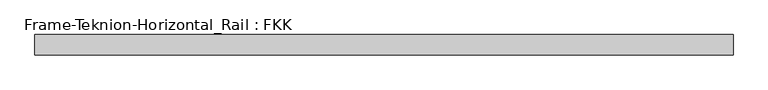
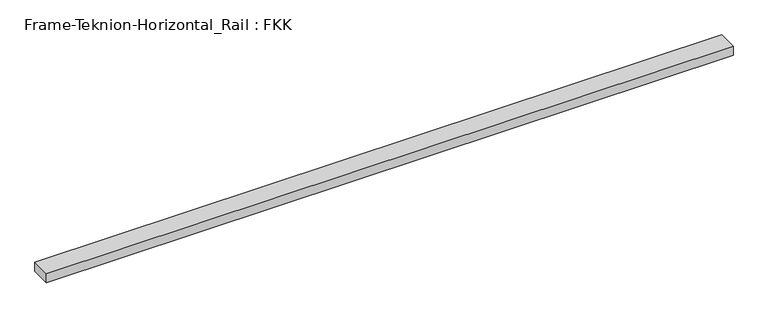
"""IFC4 building model written with IfcOpenShell, lengths in millimetres: proxy geometry, Frame-Teknion-Horizontal_Rail : FKK."""

import ifcopenshell
import ifcopenshell.guid

model = None  # the IFC model being written
_history = None  # IfcOwnerHistory: only IFC2X3 demands one
_inside = {}  # id of a spatial element -> (the spatial element, [elements in it])
_under = {}  # id of a project, library or spatial element -> (it, [spatial elements below it])
_declared = {}  # id of a project -> (the project, [libraries it declares])
_typed = {}  # id of a type object -> (the type object, [elements of that type])
_made_of = {}  # id of a material, layer set ... -> (it, [elements and type objects made of it])


def new_model(schema):
    """Start an empty IFC model of exactly this schema.

    Asked for "IFC4X3", IfcOpenShell would pick the latest addendum, in which some entities
    have other attributes; the version numbers below select the first issue.
    IFC2X3 requires an IfcOwnerHistory on every rooted entity: one is made here for all.
    """
    global model, _history
    if schema == "IFC4X3":
        model = ifcopenshell.file(schema_version=(4, 3, 0, 0))
    else:
        model = ifcopenshell.file(schema=schema)
    _inside.clear()
    _under.clear()
    _declared.clear()
    _typed.clear()
    _made_of.clear()
    _history = None
    if model.schema == "IFC2X3":
        org = make("IfcOrganization", Name="unknown")
        user = make(
            "IfcPersonAndOrganization",
            ThePerson=make("IfcPerson", FamilyName="unknown"),
            TheOrganization=org,
        )
        app = make(
            "IfcApplication",
            ApplicationDeveloper=org,
            Version="unknown",
            ApplicationFullName="unknown",
            ApplicationIdentifier="unknown",
        )
        _history = make(
            "IfcOwnerHistory",
            OwningUser=user,
            OwningApplication=app,
            ChangeAction="ADDED",
            CreationDate=0,
        )
    return model


def make(cls, **values):
    """One entity of the class cls with the attributes given. An attribute that is None is left unset."""
    return model.create_entity(
        cls, **{name: value for name, value in values.items() if value is not None}
    )


def rooted(cls, **values):
    """An entity with a GlobalId (a new one), such as an element, a storey or a relation."""
    return make(cls, GlobalId=ifcopenshell.guid.new(), OwnerHistory=_history, **values)


def si_unit(unit_type, name, prefix=None):
    """IfcSIUnit, for example si_unit("LENGTHUNIT", "METRE", prefix="MILLI")."""
    return make("IfcSIUnit", UnitType=unit_type, Prefix=prefix, Name=name)


def assignment(units):
    """IfcUnitAssignment: the units of a project."""
    return None if units is None else make("IfcUnitAssignment", Units=units)


def point(xyz):
    """IfcCartesianPoint."""
    return None if xyz is None else make("IfcCartesianPoint", Coordinates=xyz)


def direction(xyz):
    """IfcDirection."""
    return None if xyz is None else make("IfcDirection", DirectionRatios=xyz)


def frame(location, z_axis=None, x_axis=None):
    """IfcAxis2Placement3D, a coordinate frame: its origin and axes. An axis left out is left unset."""
    return make(
        "IfcAxis2Placement3D",
        Location=point(location),
        Axis=direction(z_axis),
        RefDirection=direction(x_axis),
    )


def origin():
    """The frame at (0, 0, 0) with its axes left unset."""
    return frame((0.0, 0.0, 0.0))


def place(relative_to, where):
    """IfcLocalPlacement: puts the frame where relative to a parent placement (None: the world)."""
    return make(
        "IfcLocalPlacement", PlacementRelTo=relative_to, RelativePlacement=where
    )


def context(
    kind, dimensions, precision=None, world=None, true_north=None, identifier=None
):
    """IfcGeometricRepresentationContext, for example the 3D "Model" context."""
    return make(
        "IfcGeometricRepresentationContext",
        ContextIdentifier=identifier,
        ContextType=kind,
        CoordinateSpaceDimension=dimensions,
        Precision=precision,
        WorldCoordinateSystem=world,
        TrueNorth=true_north,
    )


def project(units=None, contexts=None):
    """IfcProject with its units and contexts."""
    return rooted(
        "IfcProject",
        Name="project",
        RepresentationContexts=contexts,
        UnitsInContext=assignment(units),
    )


def spatial(cls, under=None, at=None, **own):
    """A site, building, storey or space (cls), placed at a placement, below another one or the project."""
    s = rooted(cls, ObjectPlacement=at, **own)
    if under is not None:
        _under.setdefault(under.id(), (under, []))[1].append(s)
    return s


def polyline(points):
    """IfcPolyline through the points."""
    return make("IfcPolyline", Points=[point(p) for p in points])


def outline(outer, holes=None, kind="AREA"):
    """IfcArbitraryClosedProfileDef: a profile drawn as a closed curve; with holes, ...WithVoids."""
    if holes is None:
        return make("IfcArbitraryClosedProfileDef", ProfileType=kind, OuterCurve=outer)
    return make(
        "IfcArbitraryProfileDefWithVoids",
        ProfileType=kind,
        OuterCurve=outer,
        InnerCurves=holes,
    )


def extrude(swept, where, along, depth):
    """IfcExtrudedAreaSolid: the profile swept, set in the frame where, extruded along a direction by depth."""
    return make(
        "IfcExtrudedAreaSolid",
        SweptArea=swept,
        Position=where,
        ExtrudedDirection=direction(along),
        Depth=depth,
    )


def shape(context_of_items, identifier, shape_type, items):
    """IfcShapeRepresentation: the items that make up one representation, for example the "Body"."""
    return make(
        "IfcShapeRepresentation",
        ContextOfItems=context_of_items,
        RepresentationIdentifier=identifier,
        RepresentationType=shape_type,
        Items=items,
    )


def source(mapping_origin, context_of_items, identifier, shape_type, items):
    """IfcRepresentationMap: a shape defined once, which mapped items show again and again."""
    return make(
        "IfcRepresentationMap",
        MappingOrigin=mapping_origin,
        MappedRepresentation=shape(context_of_items, identifier, shape_type, items),
    )


def transform(
    local_origin,
    x_axis=None,
    y_axis=None,
    z_axis=None,
    scale=None,
    scale2=None,
    scale3=None,
    uniform=True,
):
    """IfcCartesianTransformationOperator3D, or its non-uniform kind. x_axis, y_axis, z_axis: its Axis1, 2, 3."""
    if uniform:
        return make(
            "IfcCartesianTransformationOperator3D",
            Axis1=direction(x_axis),
            Axis2=direction(y_axis),
            LocalOrigin=point(local_origin),
            Scale=scale,
            Axis3=direction(z_axis),
        )
    return make(
        "IfcCartesianTransformationOperator3DnonUniform",
        Axis1=direction(x_axis),
        Axis2=direction(y_axis),
        LocalOrigin=point(local_origin),
        Scale=scale,
        Axis3=direction(z_axis),
        Scale2=scale2,
        Scale3=scale3,
    )


def mapped(mapping_source, mapping_target):
    """IfcMappedItem: shows the shape of a source again, moved by a transform."""
    return make(
        "IfcMappedItem", MappingSource=mapping_source, MappingTarget=mapping_target
    )


def made_of(thing, what):
    """Note that an element or type object is made of a material, layer set ...; save() writes the relation."""
    if what is not None:
        _made_of.setdefault(what.id(), (what, []))[1].append(thing)
    return thing


def element(
    cls,
    number,
    at=None,
    inside=None,
    cuts=None,
    type_object=None,
    material=None,
    context=None,
    identifier="Body",
    shape_type=None,
    held_by="IfcProductDefinitionShape",
    body=None,
    shapes=None,
    **own,
):
    """One element of the class cls, such as IfcWall. Its Tag is "e" and its number.

    at: its placement. inside: the storey or other place that contains it. cuts: it is an
    opening in that element (IfcRelVoidsElement). A single representation is given by context,
    identifier, shape_type and body (its items); several are given by shapes. held_by: the class
    of the entity that holds the representations. save() writes the other relations.
    """
    e = rooted(cls, Tag="e%d" % number, ObjectPlacement=at, **own)
    if body is not None:
        shapes = [shape(context, identifier, shape_type, body)]
    if shapes is not None:
        e.Representation = make(held_by, Representations=shapes)
    if inside is not None:
        _inside.setdefault(inside.id(), (inside, []))[1].append(e)
    if cuts is not None:
        rooted(
            "IfcRelVoidsElement", RelatingBuildingElement=cuts, RelatedOpeningElement=e
        )
    if type_object is not None:
        _typed.setdefault(type_object.id(), (type_object, []))[1].append(e)
    return made_of(e, material)


def aggregate(whole, parts):
    """IfcRelAggregates: a whole, such as a stair, and the parts it consists of."""
    return rooted("IfcRelAggregates", RelatingObject=whole, RelatedObjects=parts)


def save(model, path):
    """Write the relations noted so far, then the file.

    IfcRelAggregates (storeys below a building ...), IfcRelContainedInSpatialStructure (elements
    in a storey), IfcRelDefinesByType, IfcRelAssociatesMaterial and IfcRelDeclares: one each for
    every whole, place, type object, material and project.
    """
    for whole, parts in _under.values():
        aggregate(whole, parts)
    for where, things in _inside.values():
        rooted(
            "IfcRelContainedInSpatialStructure",
            RelatedElements=things,
            RelatingStructure=where,
        )
    for kind, things in _typed.values():
        rooted("IfcRelDefinesByType", RelatedObjects=things, RelatingType=kind)
    for what, things in _made_of.values():
        rooted("IfcRelAssociatesMaterial", RelatedObjects=things, RelatingMaterial=what)
    for by, libraries in _declared.values():
        rooted("IfcRelDeclares", RelatingContext=by, RelatedDefinitions=libraries)
    model.write(path)


def frame_teknion_horizontal_rail_fkk_aab90c89(model_context):
    return source(origin(), model_context, "Body", "SweptSolid", [
        extrude(outline(polyline([(-1002.0101562, -29.2199219), (-1002.0101562, 29.2199219), (1002.0101563, 29.2199219), (1002.0101563, -29.2199219), (-1002.0101562, -29.2199219)])), frame((0.0, 0.0, -13.9898438), z_axis=(0.0, 0.0, 1.0), x_axis=(1.0, 0.0, 0.0)), (0.0, 0.0, 1.0), 27.9796875),
    ])


if __name__ == "__main__":
    model = new_model("IFC4")
    model_context = context("Model", 3, world=origin())
    ifc_project = project(units=[si_unit("LENGTHUNIT", "METRE", prefix="MILLI")], contexts=[model_context])
    site = spatial("IfcSite", under=ifc_project)
    building = spatial("IfcBuilding", under=site)
    placement = place(None, origin())
    frame_teknion_horizontal_rail_fkk_shape = frame_teknion_horizontal_rail_fkk_aab90c89(model_context)
    element("IfcBuildingElementProxy", 1, Name="Frame-Teknion-Horizontal_Rail : FKK", ObjectType="Frame-Teknion-Horizontal_Rail : FKK", at=placement, inside=building, context=model_context, shape_type="MappedRepresentation", body=[
        mapped(frame_teknion_horizontal_rail_fkk_shape, transform((0.0, 0.0, 0.0), x_axis=(1.0, 0.0, 0.0), y_axis=(0.0, 1.0, 0.0), z_axis=(0.0, 0.0, 1.0))),
    ])
    save(model, "model.ifc")
